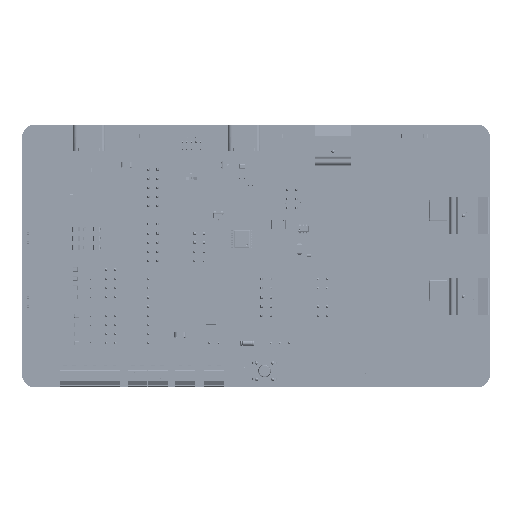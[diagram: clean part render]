
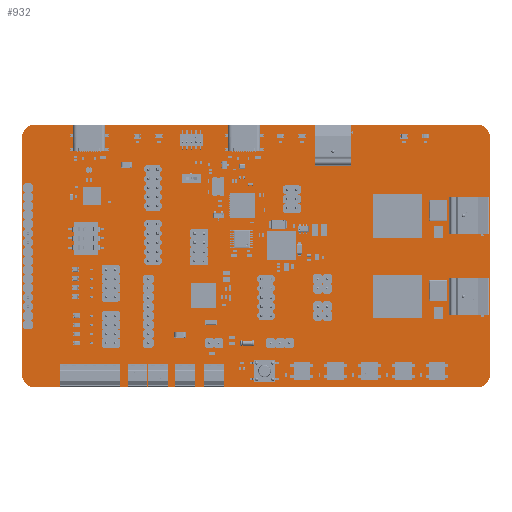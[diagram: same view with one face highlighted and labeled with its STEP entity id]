
A CAD part, top view. The second image highlights one B-rep face of the part: STEP entity #932.
In plain terms, the highlighted planar face has unit normal (0, 0, 1).
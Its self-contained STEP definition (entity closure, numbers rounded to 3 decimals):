
#667 = VERTEX_POINT('',#668);
#668 = CARTESIAN_POINT('',(-4.239,-9.376,0.));
#674 = EDGE_CURVE('',#667,#675,#677,.T.);
#675 = VERTEX_POINT('',#676);
#676 = CARTESIAN_POINT('',(-0.698,-13.043,0.));
#677 = CIRCLE('',#678,3.648);
#678 = AXIS2_PLACEMENT_3D('',#679,#680,#681);
#679 = CARTESIAN_POINT('',(-0.591,-9.397,0.));
#680 = DIRECTION('',(0.,0.,1.));
#681 = DIRECTION('',(-1.,0.006,0.));
#707 = EDGE_CURVE('',#675,#708,#710,.T.);
#708 = VERTEX_POINT('',#709);
#709 = CARTESIAN_POINT('',(122.096,-13.044,0.));
#710 = LINE('',#711,#712);
#711 = CARTESIAN_POINT('',(-0.698,-13.043,0.));
#712 = VECTOR('',#713,1.);
#713 = DIRECTION('',(1.,0.,0.));
#738 = EDGE_CURVE('',#708,#739,#741,.T.);
#739 = VERTEX_POINT('',#740);
#740 = CARTESIAN_POINT('',(125.761,-9.501,0.));
#741 = CIRCLE('',#742,3.646);
#742 = AXIS2_PLACEMENT_3D('',#743,#744,#745);
#743 = CARTESIAN_POINT('',(122.116,-9.398,0.));
#744 = DIRECTION('',(0.,0.,1.));
#745 = DIRECTION('',(-0.006,-1.,0.));
#771 = EDGE_CURVE('',#739,#772,#774,.T.);
#772 = VERTEX_POINT('',#773);
#773 = CARTESIAN_POINT('',(125.763,56.291,0.));
#774 = LINE('',#775,#776);
#775 = CARTESIAN_POINT('',(125.761,-9.501,0.));
#776 = VECTOR('',#777,1.);
#777 = DIRECTION('',(0.,1.,0.));
#802 = EDGE_CURVE('',#772,#803,#805,.T.);
#803 = VERTEX_POINT('',#804);
#804 = CARTESIAN_POINT('',(122.222,59.957,0.));
#805 = CIRCLE('',#806,3.648);
#806 = AXIS2_PLACEMENT_3D('',#807,#808,#809);
#807 = CARTESIAN_POINT('',(122.115,56.311,0.));
#808 = DIRECTION('',(0.,0.,1.));
#809 = DIRECTION('',(1.,-0.005,0.));
#835 = EDGE_CURVE('',#803,#836,#838,.T.);
#836 = VERTEX_POINT('',#837);
#837 = CARTESIAN_POINT('',(-0.571,59.951,0.));
#838 = LINE('',#839,#840);
#839 = CARTESIAN_POINT('',(122.222,59.957,0.));
#840 = VECTOR('',#841,1.);
#841 = DIRECTION('',(-1.,0.,0.));
#866 = EDGE_CURVE('',#836,#867,#869,.T.);
#867 = VERTEX_POINT('',#868);
#868 = CARTESIAN_POINT('',(-4.239,56.408,0.));
#869 = CIRCLE('',#870,3.651);
#870 = AXIS2_PLACEMENT_3D('',#871,#872,#873);
#871 = CARTESIAN_POINT('',(-0.589,56.3,0.));
#872 = DIRECTION('',(0.,0.,1.));
#873 = DIRECTION('',(0.005,1.,0.));
#899 = EDGE_CURVE('',#867,#667,#900,.T.);
#900 = LINE('',#901,#902);
#901 = CARTESIAN_POINT('',(-4.239,56.408,0.));
#902 = VECTOR('',#903,1.);
#903 = DIRECTION('',(0.,-1.,0.));
#932 = ADVANCED_FACE('',(#933),#943,.F.);
#933 = FACE_BOUND('',#934,.T.);
#934 = EDGE_LOOP('',(#935,#936,#937,#938,#939,#940,#941,#942));
#935 = ORIENTED_EDGE('',*,*,#674,.T.);
#936 = ORIENTED_EDGE('',*,*,#707,.T.);
#937 = ORIENTED_EDGE('',*,*,#738,.T.);
#938 = ORIENTED_EDGE('',*,*,#771,.T.);
#939 = ORIENTED_EDGE('',*,*,#802,.T.);
#940 = ORIENTED_EDGE('',*,*,#835,.T.);
#941 = ORIENTED_EDGE('',*,*,#866,.T.);
#942 = ORIENTED_EDGE('',*,*,#899,.T.);
#943 = PLANE('',#944);
#944 = AXIS2_PLACEMENT_3D('',#945,#946,#947);
#945 = CARTESIAN_POINT('',(-4.239,-9.376,0.));
#946 = DIRECTION('',(0.,0.,-1.));
#947 = DIRECTION('',(-1.,0.,0.));
